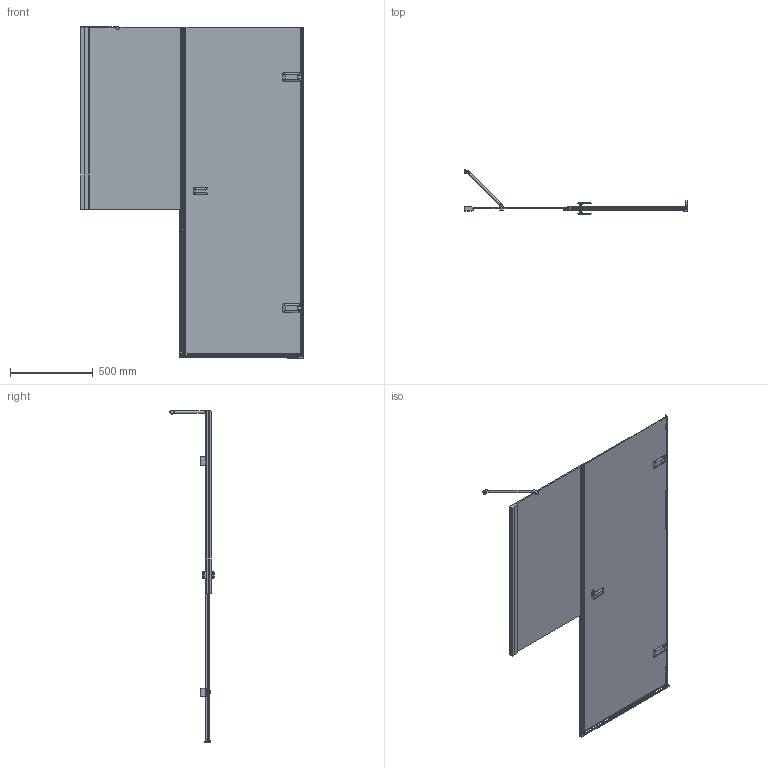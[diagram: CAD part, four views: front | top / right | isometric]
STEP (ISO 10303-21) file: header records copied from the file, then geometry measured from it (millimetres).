
FILE_DESCRIPTION(/* description */ (''),/* implementation_level */ '2;1');
FILE_NAME(/* name */ 'E:\Работа\Сергей\Душевые кабинки\! Работа\! 1\TREND DOOR GK-862BPLTWO\TREND DOOR GK-862BPLTWO правая модель\TREND DOOR GK-862BPLTWO ПРАВАЯ-3D.stp',/* time_stamp */ '2017-08-23T21:48:22+03:00',/* author */ ('PC'),/* organization */ (''),/* preprocessor_version */ 'ST-DEVELOPER v15.2',/* originating_system */ 'Autodesk Inventor 2014',/* authorisation */ '');
FILE_SCHEMA (('AUTOMOTIVE_DESIGN { 1 0 10303 214 3 1 1 }'));
Length unit declared in the file: millimetre
Products named in the file (1): TREND DOOR GK-862BPLTWO ПРАВАЯ-
3D
Bounding box: 1349.14 x 268.74 x 2009.49 mm (x, y, z)
Volume: 15910821.4 mm3; surface area: 4820676.5 mm2
Topology: 6 solids, 6 shells, 858 faces, 2280 edges, 1396 vertices
Faces by surface type: plane 549, cylinder 226, bspline 52, torus 26, sphere 5
Full cylindrical faces by diameter (mm): 4.5 x3, 12 x2, 15 x1, 20 x2, 26 x1
Entity records: 28978 total; most frequent: CARTESIAN_POINT 6920, ORIENTED_EDGE 4472, DIRECTION 4316, EDGE_CURVE 2235, LINE 1578, VECTOR 1578, VERTEX_POINT 1391, AXIS2_PLACEMENT_3D 1369
